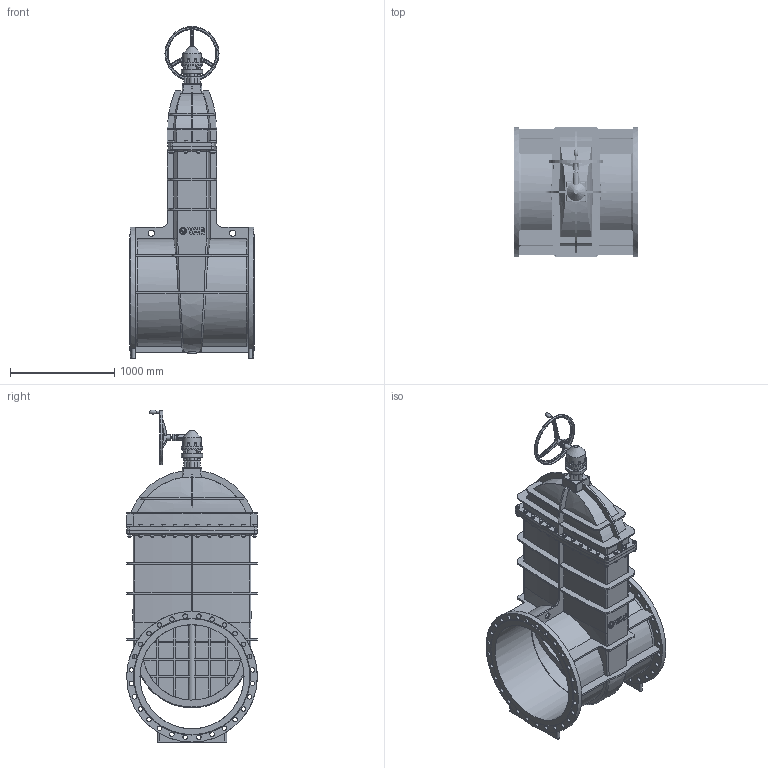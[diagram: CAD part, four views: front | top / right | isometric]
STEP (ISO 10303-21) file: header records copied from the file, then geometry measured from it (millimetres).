
FILE_DESCRIPTION(('STEP AP242'), '1');
FILE_NAME('青溻桄赅', '', ('UNSPECIFIED'), ('UNSPECIFIED'), 'C3D Converter', 'C3D Toolkit', '');
FILE_SCHEMA(('AP242_MANAGED_MODEL_BASED_3D_ENGINEERING_MIM_LF { 1 0 10303 442 1 1 4 }'));
Length unit declared in the file: millimetre
Assembly tree (195 placements, depth 2):
  (unnamed)
    (unnamed)
    (unnamed)
    (unnamed)
    (unnamed)  x2
    (unnamed)
    (unnamed)
    (unnamed)
    (unnamed)
    (unnamed)
    (unnamed)  x28
    (unnamed)  x56
    (unnamed)  x56
    (unnamed)  x28
    (unnamed)
    (unnamed)  x4
    (unnamed)  x12
Bounding box: 1200 x 1256 x 3189.32 mm (x, y, z)
Volume: 304489455.7 mm3; surface area: 28663924.4 mm2
Topology: 203 solids, 203 shells, 3448 faces, 7947 edges, 5008 vertices
Faces by surface type: plane 1939, cylinder 776, cone 408, extrusion 167, torus 86, bspline 72
Full cylindrical faces by diameter (mm): 5 x12, 6 x39, 10 x16, 12 x20, 17.294 x28, 18 x8, 20 x33, 22 x140, 30 x28, 34 x56, 40 x10, 43 x56, 50 x1, 60 x4, 73.333 x5, 74.519 x1, 80 x1, 153.825 x2, 178.745 x1, 203.666 x3, 460 x1, 470 x1, 510 x1, 520 x1, 950 x2, 1000 x4, 1060 x4, 1100 x1, 1255 x2
Entity records: 77796 total; most frequent: CARTESIAN_POINT 32573, ORIENTED_EDGE 7616, DIRECTION 7358, EDGE_CURVE 3808, VERTEX_POINT 2656, AXIS2_PLACEMENT_3D 2640, EDGE_LOOP 2276, VECTOR 2078
